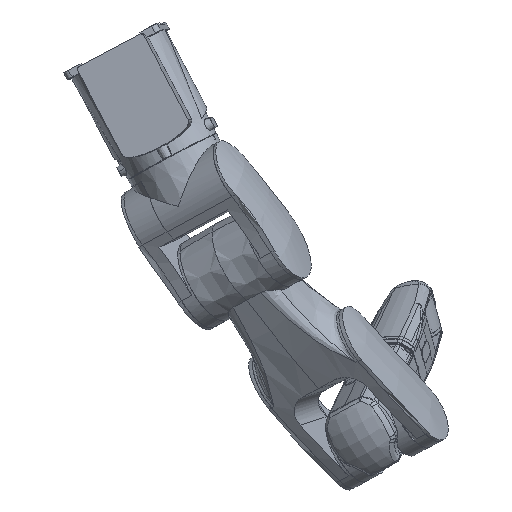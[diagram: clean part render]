
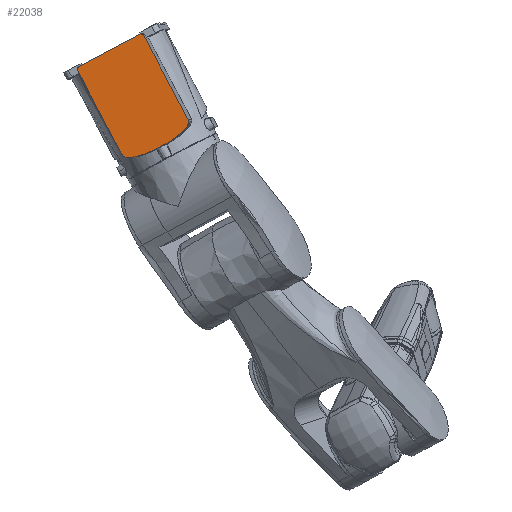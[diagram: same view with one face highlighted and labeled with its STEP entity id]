
A CAD part, isometric view. The second image highlights one B-rep face of the part: STEP entity #22038.
In plain terms, the highlighted planar face has unit normal (-0.645, -0.516, 0.563) as drawn and (-1, 0, 0) by its records, which use the part's own axes.
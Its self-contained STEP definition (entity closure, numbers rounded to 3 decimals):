
#1399 = PLANE ( 'NONE',  #92969 ) ;
#1656 = ORIENTED_EDGE ( 'NONE', *, *, #113311, .T. ) ;
#3272 = VERTEX_POINT ( 'NONE', #3832 ) ;
#3832 = CARTESIAN_POINT ( 'NONE',  ( -10.996, 78.475, 37.711 ) ) ;
#5307 = VECTOR ( 'NONE', #129900, 1000. ) ;
#6170 = LINE ( 'NONE', #22532, #80501 ) ;
#6937 = CIRCLE ( 'NONE', #108757, 6. ) ;
#7970 = CARTESIAN_POINT ( 'NONE',  ( -10.996, 139.975, 233.711 ) ) ;
#11898 = ORIENTED_EDGE ( 'NONE', *, *, #110167, .F. ) ;
#15504 = CARTESIAN_POINT ( 'NONE',  ( -10.996, 207.475, 213.711 ) ) ;
#17219 = DIRECTION ( 'NONE',  ( 0., 1., 0. ) ) ;
#22038 = ADVANCED_FACE ( 'NONE', ( #52485 ), #1399, .F. ) ;
#22157 = DIRECTION ( 'NONE',  ( 0., 0., -1. ) ) ;
#22532 = CARTESIAN_POINT ( 'NONE',  ( -10.996, 99.464, 37.711 ) ) ;
#24262 = DIRECTION ( 'NONE',  ( 0., 1., 0. ) ) ;
#24935 = CIRCLE ( 'NONE', #77111, 6. ) ;
#28814 = VECTOR ( 'NONE', #17219, 1000. ) ;
#28892 = CARTESIAN_POINT ( 'NONE',  ( -10.996, 72.475, 213.711 ) ) ;
#29491 = CARTESIAN_POINT ( 'NONE',  ( -10.996, 132.475, 233.711 ) ) ;
#35113 = ORIENTED_EDGE ( 'NONE', *, *, #40374, .T. ) ;
#35153 = DIRECTION ( 'NONE',  ( 0., 0., -1. ) ) ;
#35261 = VECTOR ( 'NONE', #49345, 1000. ) ;
#37579 =( BOUNDED_CURVE ( )  B_SPLINE_CURVE ( 2, ( #131153, #80181, #28892 ),
 .UNSPECIFIED., .F., .F. ) 
 B_SPLINE_CURVE_WITH_KNOTS ( ( 3, 3 ),
 ( -0.059, 0.008 ),
 .UNSPECIFIED. ) 
 CURVE ( )  GEOMETRIC_REPRESENTATION_ITEM ( )  RATIONAL_B_SPLINE_CURVE ( ( 1., 0.707, 1. ) ) 
 REPRESENTATION_ITEM ( '' )  );
#38527 = CARTESIAN_POINT ( 'NONE',  ( -10.996, 78.475, 43.711 ) ) ;
#38949 = CARTESIAN_POINT ( 'NONE',  ( -10.996, 147.475, 233.711 ) ) ;
#40295 = CARTESIAN_POINT ( 'NONE',  ( -10.996, 147.475, 233.711 ) ) ;
#40374 = EDGE_CURVE ( 'NONE', #117683, #97461, #111314, .T. ) ;
#44822 = EDGE_CURVE ( 'NONE', #123329, #122151, #112736, .T. ) ;
#48155 = EDGE_CURVE ( 'NONE', #123329, #123420, #37579, .T. ) ;
#48696 = DIRECTION ( 'NONE',  ( 0., 0., 1. ) ) ;
#48848 = ORIENTED_EDGE ( 'NONE', *, *, #99480, .F. ) ;
#49345 = DIRECTION ( 'NONE',  ( 0., 0., -1. ) ) ;
#52485 = FACE_OUTER_BOUND ( 'NONE', #124969, .T. ) ;
#58820 = CARTESIAN_POINT ( 'NONE',  ( -10.996, 72.475, 43.711 ) ) ;
#61558 = EDGE_CURVE ( 'NONE', #3272, #98732, #6170, .T. ) ;
#61788 = ORIENTED_EDGE ( 'NONE', *, *, #61558, .F. ) ;
#65728 = VERTEX_POINT ( 'NONE', #58820 ) ;
#72561 = DIRECTION ( 'NONE',  ( 1., 0., 0. ) ) ;
#77111 = AXIS2_PLACEMENT_3D ( 'NONE', #38527, #109314, #48696 ) ;
#78081 = CARTESIAN_POINT ( 'NONE',  ( -10.996, 207.475, 233.711 ) ) ;
#80181 = CARTESIAN_POINT ( 'NONE',  ( -10.996, 72.475, 233.711 ) ) ;
#80501 = VECTOR ( 'NONE', #24262, 1000. ) ;
#87164 = CARTESIAN_POINT ( 'NONE',  ( -10.996, 207.475, 233.711 ) ) ;
#89121 = CARTESIAN_POINT ( 'NONE',  ( -10.996, 72.475, 233.711 ) ) ;
#90391 = ORIENTED_EDGE ( 'NONE', *, *, #48155, .F. ) ;
#90849 = ORIENTED_EDGE ( 'NONE', *, *, #128241, .F. ) ;
#92969 = AXIS2_PLACEMENT_3D ( 'NONE', #102207, #72561, #22157 ) ;
#95123 = CARTESIAN_POINT ( 'NONE',  ( -10.996, 207.475, 43.711 ) ) ;
#95715 = CARTESIAN_POINT ( 'NONE',  ( -10.996, 201.475, 43.711 ) ) ;
#97461 = VERTEX_POINT ( 'NONE', #95123 ) ;
#98732 = VERTEX_POINT ( 'NONE', #111176 ) ;
#99480 = EDGE_CURVE ( 'NONE', #65728, #3272, #24935, .T. ) ;
#102207 = CARTESIAN_POINT ( 'NONE',  ( -10.996, 99.464, 230.412 ) ) ;
#108757 = AXIS2_PLACEMENT_3D ( 'NONE', #95715, #115717, #35153 ) ;
#109314 = DIRECTION ( 'NONE',  ( 1., 0., 0. ) ) ;
#110167 = EDGE_CURVE ( 'NONE', #98732, #97461, #6937, .T. ) ;
#111176 = CARTESIAN_POINT ( 'NONE',  ( -10.996, 201.475, 37.711 ) ) ;
#111314 = LINE ( 'NONE', #78081, #35261 ) ;
#111539 =( BOUNDED_CURVE ( )  B_SPLINE_CURVE ( 2, ( #15504, #87164, #38949 ),
 .UNSPECIFIED., .F., .F. ) 
 B_SPLINE_CURVE_WITH_KNOTS ( ( 3, 3 ),
 ( -0.008, 0.058 ),
 .UNSPECIFIED. ) 
 CURVE ( )  GEOMETRIC_REPRESENTATION_ITEM ( )  RATIONAL_B_SPLINE_CURVE ( ( 1., 0.707, 1. ) ) 
 REPRESENTATION_ITEM ( '' )  );
#112736 = LINE ( 'NONE', #7970, #28814 ) ;
#113311 = EDGE_CURVE ( 'NONE', #65728, #123420, #117654, .T. ) ;
#115717 = DIRECTION ( 'NONE',  ( 1., 0., 0. ) ) ;
#116161 = CARTESIAN_POINT ( 'NONE',  ( -10.996, 72.475, 213.711 ) ) ;
#117654 = LINE ( 'NONE', #89121, #5307 ) ;
#117683 = VERTEX_POINT ( 'NONE', #119194 ) ;
#119194 = CARTESIAN_POINT ( 'NONE',  ( -10.996, 207.475, 213.711 ) ) ;
#122151 = VERTEX_POINT ( 'NONE', #40295 ) ;
#123329 = VERTEX_POINT ( 'NONE', #29491 ) ;
#123420 = VERTEX_POINT ( 'NONE', #116161 ) ;
#124969 = EDGE_LOOP ( 'NONE', ( #90391, #130915, #90849, #35113, #11898, #61788, #48848, #1656 ) ) ;
#128241 = EDGE_CURVE ( 'NONE', #117683, #122151, #111539, .T. ) ;
#129900 = DIRECTION ( 'NONE',  ( 0., 0., 1. ) ) ;
#130915 = ORIENTED_EDGE ( 'NONE', *, *, #44822, .T. ) ;
#131153 = CARTESIAN_POINT ( 'NONE',  ( -10.996, 132.475, 233.711 ) ) ;
